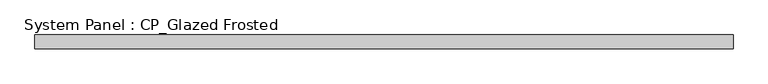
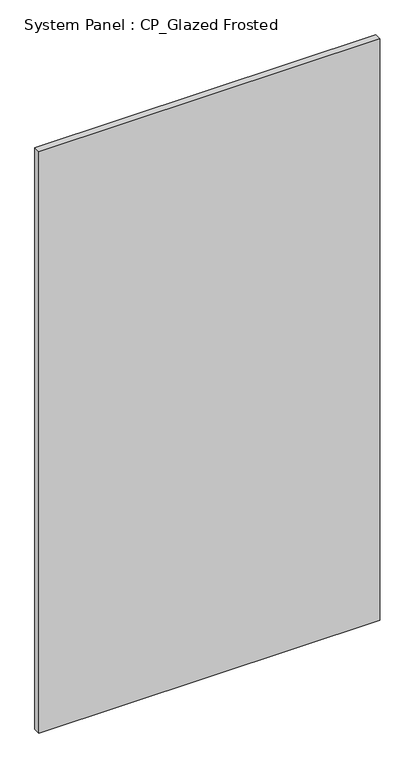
"""IFC4 building model written with IfcOpenShell, lengths in millimetres: plate geometry, System Panel : CP_Glazed Frosted."""

from ifc_helpers import new_model, si_unit, origin, origin_with_axes, place, context, project, spatial, polyline, outline, extrude, source, transform, mapped, element, save


def system_panel_cp_glazed_frosted_6cb5b9c5(model_context):
    return source(origin(), model_context, "Body", "SweptSolid", [
        extrude(outline(polyline([(641.35, -44.45), (-641.35, -44.45), (-641.35, -19.05), (641.35, -19.05), (641.35, -44.45)])), origin_with_axes(), (0.0, 0.0, 1.0), 2311.4),
    ])


if __name__ == "__main__":
    model = new_model("IFC4")
    model_context = context("Model", 3, world=origin())
    ifc_project = project(units=[si_unit("LENGTHUNIT", "METRE", prefix="MILLI")], contexts=[model_context])
    site = spatial("IfcSite", under=ifc_project)
    building = spatial("IfcBuilding", under=site)
    placement = place(None, origin())
    system_panel_cp_glazed_frosted_shape = system_panel_cp_glazed_frosted_6cb5b9c5(model_context)
    element("IfcPlate", 1, ObjectType="System Panel : CP_Glazed Frosted", at=placement, inside=building, context=model_context, shape_type="MappedRepresentation", body=[
        mapped(system_panel_cp_glazed_frosted_shape, transform((0.0, 0.0, 0.0), x_axis=(1.0, 0.0, 0.0), y_axis=(0.0, 1.0, 0.0), z_axis=(0.0, 0.0, 1.0))),
    ])
    save(model, "model.ifc")
